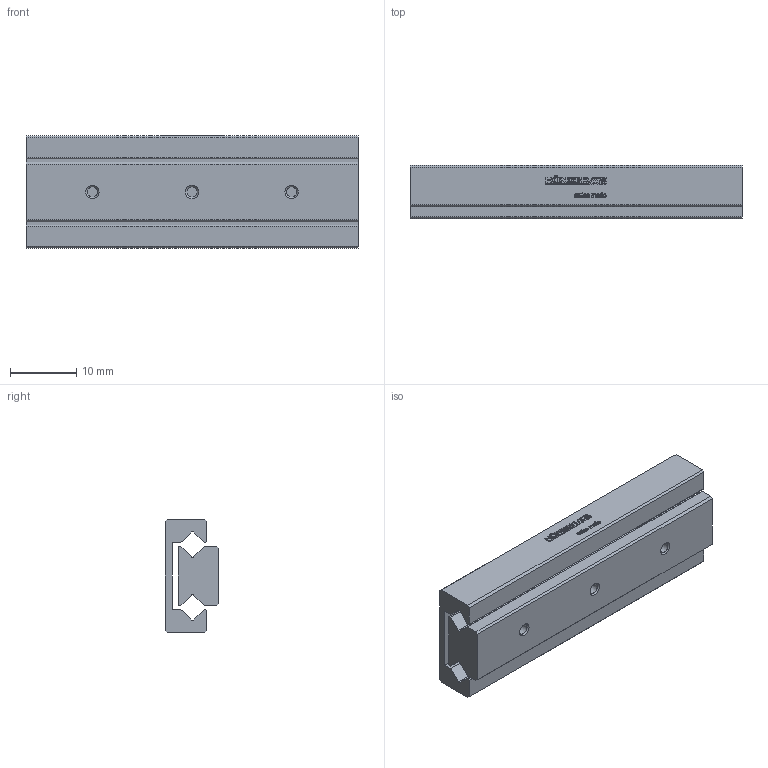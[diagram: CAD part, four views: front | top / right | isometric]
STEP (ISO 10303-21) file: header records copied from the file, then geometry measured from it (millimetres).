
FILE_DESCRIPTION(/* description */ ('STEP AP214'),/* implementation_level */ '2;1');
FILE_NAME(/* name */ 'MSR 7-50.40(0)',/* time_stamp */ '2025-04-16T17:20:43+02:00',/* author */ ('License CC BY-ND 4.0'),/* organization */ ('CADENAS'),/* preprocessor_version */ 'ST-DEVELOPER v19.3',/* originating_system */ 'PARTsolutions',/* authorisation */ ' ');
FILE_SCHEMA (('AUTOMOTIVE_DESIGN {1 0 10303 214 3 1 1}'));
Length unit declared in the file: millimetre
Products named in the file (3): MSR 7-50.40(0); MSR 7-50.40_1; MSR 7-50.40_2
Assembly tree (2 placements, depth 2):
  MSR 7-50.40(0)
    MSR 7-50.40_1
    MSR 7-50.40_2
Bounding box: 50 x 8 x 17 mm (x, y, z)
Volume: 4710.1 mm3; surface area: 4942.2 mm2
Topology: 2 solids, 2 shells, 538 faces, 1507 edges, 1000 vertices
Faces by surface type: cylinder 307, plane 217, cone 14
Full cylindrical faces by diameter (mm): 1.567 x11
Entity records: 17477 total; most frequent: DIRECTION 3192, CARTESIAN_POINT 3007, ORIENTED_EDGE 2948, EDGE_CURVE 1474, AXIS2_PLACEMENT_3D 1177, VERTEX_POINT 992, LINE 838, VECTOR 838
